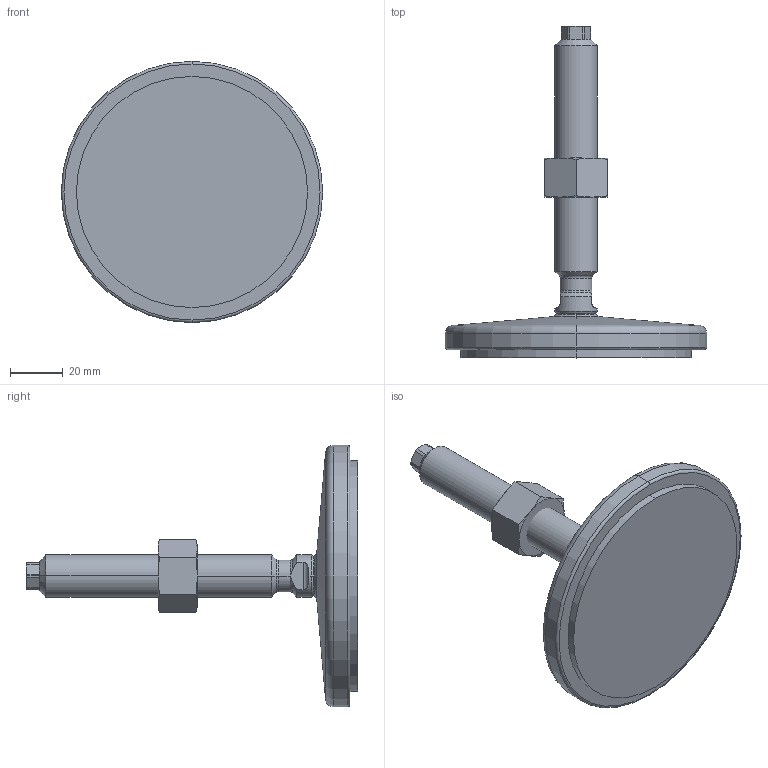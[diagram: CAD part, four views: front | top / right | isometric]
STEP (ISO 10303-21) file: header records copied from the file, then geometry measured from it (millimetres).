
FILE_DESCRIPTION (( 'STEP AP214' ), '1' );
FILE_NAME ('21-100-M16-100-D1-VK.step', '2020-10-02T17:37:20', ( '' ), ( '' ), 'SwSTEP 2.0', 'SolidWorks 2019', '' );
FILE_SCHEMA (( 'AUTOMOTIVE_DESIGN' ));
Length unit declared in the file: millimetre
Products named in the file (4): WB4032^WB21_V_M16; WB21_Spindel_V^WB21_V_M16-100; 21-100-M16-100-D1-VK; WB21_Fußteller 21^WB21_V_D1-100-R10-B7 (M8 M10_M12_M16)
Assembly tree (3 placements, depth 2):
  21-100-M16-100-D1-VK
    WB21_Fußteller 21^WB21_V_D1-100-R10-B7 (M8 M10_M12_M16)
    WB21_Spindel_V^WB21_V_M16-100
    WB4032^WB21_V_M16
Bounding box: 99 x 125.64 x 99 mm (x, y, z)
Volume: 123475.5 mm3; surface area: 27159 mm2
Topology: 3 solids, 3 shells, 98 faces, 219 edges, 129 vertices
Faces by surface type: cone 29, plane 28, cylinder 27, torus 10, sphere 4
Entity records: 3121 total; most frequent: CARTESIAN_POINT 728, DIRECTION 476, ORIENTED_EDGE 438, EDGE_CURVE 219, AXIS2_PLACEMENT_3D 205, VERTEX_POINT 129, EDGE_LOOP 102, CIRCLE 101
